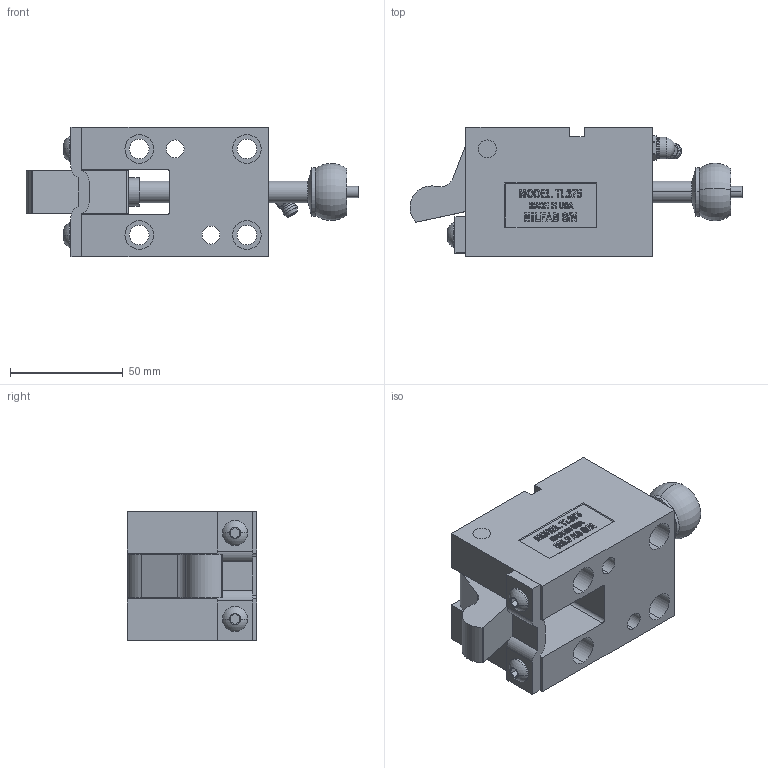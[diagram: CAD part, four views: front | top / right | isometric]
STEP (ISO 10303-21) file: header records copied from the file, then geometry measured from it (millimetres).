
FILE_DESCRIPTION (( 'STEP AP214' ), '1' );
FILE_NAME ('TL37545-C.STEP', '2014-01-05T22:13:10', ( 'user' ), ( '' ), 'SwSTEP 2.0', 'SolidWorks 2009', '' );
FILE_SCHEMA (( 'AUTOMOTIVE_DESIGN' ));
Length unit declared in the file: inch
Products named in the file (11): 375-OFFSET TRIGGER; 375 PIVOT PIN; 1-4 SCREW; 375-WASHER; 375 STRIPPER CLOSED; 375-I-STRAP; GREASE ZERK; TL375-BODY; TL37545-C; L375-PUNCH; I-375-POINT
Assembly tree (11 placements, depth 2):
  TL37545-C
    375-WASHER
    375-OFFSET TRIGGER
    I-375-POINT
    L375-PUNCH
    375-I-STRAP
    TL375-BODY
    375 PIVOT PIN
    GREASE ZERK
    375 STRIPPER CLOSED
    1-4 SCREW  x2
Bounding box: 146.96 x 57.15 x 57.15 mm (x, y, z)
Volume: 229319.2 mm3; surface area: 58161 mm2
Topology: 11 solids, 11 shells, 581 faces, 1499 edges, 984 vertices
Faces by surface type: plane 341, cylinder 98, bspline 86, cone 30, torus 22, sphere 4
Entity records: 22482 total; most frequent: CARTESIAN_POINT 8739, ORIENTED_EDGE 2910, DIRECTION 2413, EDGE_CURVE 1455, VECTOR 963, LINE 963, VERTEX_POINT 958, AXIS2_PLACEMENT_3D 725
